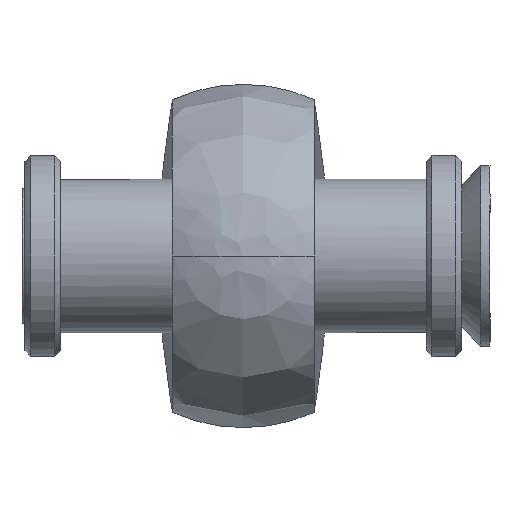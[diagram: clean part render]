
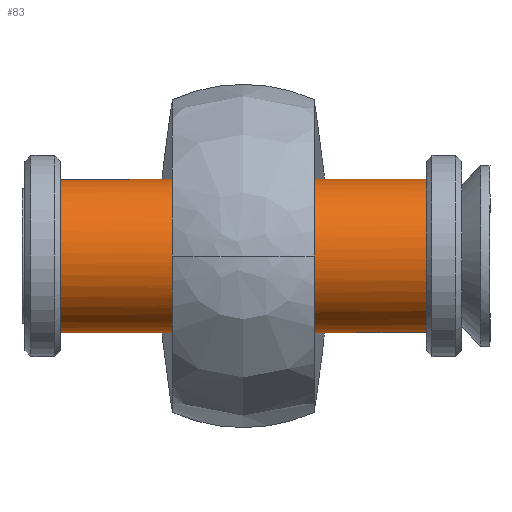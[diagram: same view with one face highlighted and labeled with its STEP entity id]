
A CAD part, left-side view. The second image highlights one B-rep face of the part: STEP entity #83.
In plain terms, the highlighted cylindrical face has radius 6.5 mm (diameter 13 mm), a full revolution.
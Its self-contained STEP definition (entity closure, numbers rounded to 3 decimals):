
#83=ADVANCED_FACE('',(#157),#1214,.T.);
#157=FACE_OUTER_BOUND('',#238,.T.);
#238=EDGE_LOOP('',(#506,#507,#508,#509));
#506=ORIENTED_EDGE('',*,*,#774,.T.);
#507=ORIENTED_EDGE('',*,*,#776,.T.);
#508=ORIENTED_EDGE('',*,*,#775,.T.);
#509=ORIENTED_EDGE('',*,*,#776,.F.);
#774=EDGE_CURVE('',#1128,#1128,#983,.T.);
#775=EDGE_CURVE('',#1129,#1129,#984,.T.);
#776=EDGE_CURVE('',#1128,#1129,#897,.T.);
#897=B_SPLINE_CURVE_WITH_KNOTS('',1,(#2248,#2249),.UNSPECIFIED.,.F.,.F.,
(2,2),(3.208,34.091),.UNSPECIFIED.);
#983=(
BOUNDED_CURVE()
B_SPLINE_CURVE(2,(#2230,#2231,#2232,#2233,#2234,#2235,#2236,#2237,#2238),
 .UNSPECIFIED.,.T.,.F.)
B_SPLINE_CURVE_WITH_KNOTS((3,2,2,2,3),(0.,10.21,20.42,
30.631,40.841),.UNSPECIFIED.)
CURVE()
GEOMETRIC_REPRESENTATION_ITEM()
RATIONAL_B_SPLINE_CURVE((1.,0.707,1.,0.707,1.,0.707,
1.,0.707,1.))
REPRESENTATION_ITEM('')
);
#984=(
BOUNDED_CURVE()
B_SPLINE_CURVE(2,(#2239,#2240,#2241,#2242,#2243,#2244,#2245,#2246,#2247),
 .UNSPECIFIED.,.T.,.F.)
B_SPLINE_CURVE_WITH_KNOTS((3,2,2,2,3),(0.,10.21,20.42,
30.631,40.841),.UNSPECIFIED.)
CURVE()
GEOMETRIC_REPRESENTATION_ITEM()
RATIONAL_B_SPLINE_CURVE((1.,0.707,1.,0.707,1.,0.707,
1.,0.707,1.))
REPRESENTATION_ITEM('')
);
#1128=VERTEX_POINT('',#2182);
#1129=VERTEX_POINT('',#2183);
#1214=CYLINDRICAL_SURFACE('',#1366,6.5);
#1366=AXIS2_PLACEMENT_3D('',#2172,#1412,$);
#1412=DIRECTION('',(0.,-1.,0.));
#2172=CARTESIAN_POINT('',(0.,0.,0.));
#2182=CARTESIAN_POINT('',(6.5,15.442,0.));
#2183=CARTESIAN_POINT('',(6.5,-15.442,0.));
#2230=CARTESIAN_POINT('',(6.5,15.442,0.));
#2231=CARTESIAN_POINT('',(6.5,15.442,6.5));
#2232=CARTESIAN_POINT('',(0.,15.442,6.5));
#2233=CARTESIAN_POINT('',(-6.5,15.442,6.5));
#2234=CARTESIAN_POINT('',(-6.5,15.442,0.));
#2235=CARTESIAN_POINT('',(-6.5,15.442,-6.5));
#2236=CARTESIAN_POINT('',(0.,15.442,-6.5));
#2237=CARTESIAN_POINT('',(6.5,15.442,-6.5));
#2238=CARTESIAN_POINT('',(6.5,15.442,0.));
#2239=CARTESIAN_POINT('',(6.5,-15.442,0.));
#2240=CARTESIAN_POINT('',(6.5,-15.442,-6.5));
#2241=CARTESIAN_POINT('',(0.,-15.442,-6.5));
#2242=CARTESIAN_POINT('',(-6.5,-15.442,-6.5));
#2243=CARTESIAN_POINT('',(-6.5,-15.442,0.));
#2244=CARTESIAN_POINT('',(-6.5,-15.442,6.5));
#2245=CARTESIAN_POINT('',(0.,-15.442,6.5));
#2246=CARTESIAN_POINT('',(6.5,-15.442,6.5));
#2247=CARTESIAN_POINT('',(6.5,-15.442,0.));
#2248=CARTESIAN_POINT('',(6.5,15.442,0.));
#2249=CARTESIAN_POINT('',(6.5,-15.442,0.));
